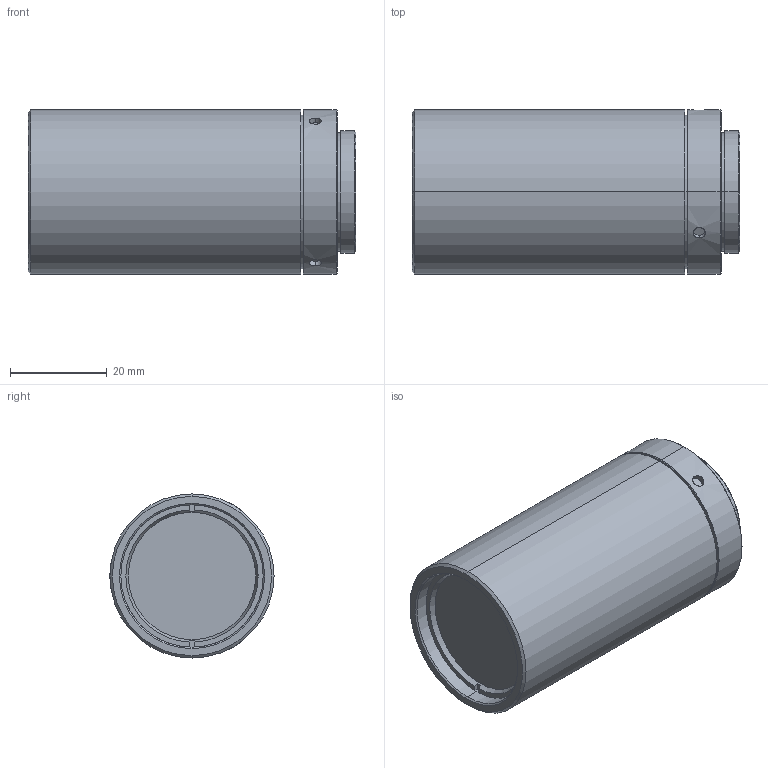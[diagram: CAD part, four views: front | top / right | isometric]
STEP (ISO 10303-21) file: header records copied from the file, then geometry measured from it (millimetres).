
FILE_DESCRIPTION (( 'STEP AP203' ), '1' );
FILE_NAME ('WWT121-033-180S.STEP', '2023-04-27T02:10:07', ( '' ), ( '' ), 'SwSTEP 2.0', 'SolidWorks 2017', '' );
FILE_SCHEMA (( 'CONFIG_CONTROL_DESIGN' ));
Length unit declared in the file: millimetre
Products named in the file (1): WWT121-033-180S
Bounding box: 67.9 x 34 x 34 mm (x, y, z)
Volume: 56760.6 mm3; surface area: 9631 mm2
Topology: 1 solids, 1 shells, 51 faces, 110 edges, 70 vertices
Faces by surface type: cylinder 23, plane 16, cone 12
Entity records: 1679 total; most frequent: CARTESIAN_POINT 472, DIRECTION 248, ORIENTED_EDGE 220, EDGE_CURVE 110, AXIS2_PLACEMENT_3D 102, VERTEX_POINT 70, EDGE_LOOP 60, FACE_OUTER_BOUND 51
